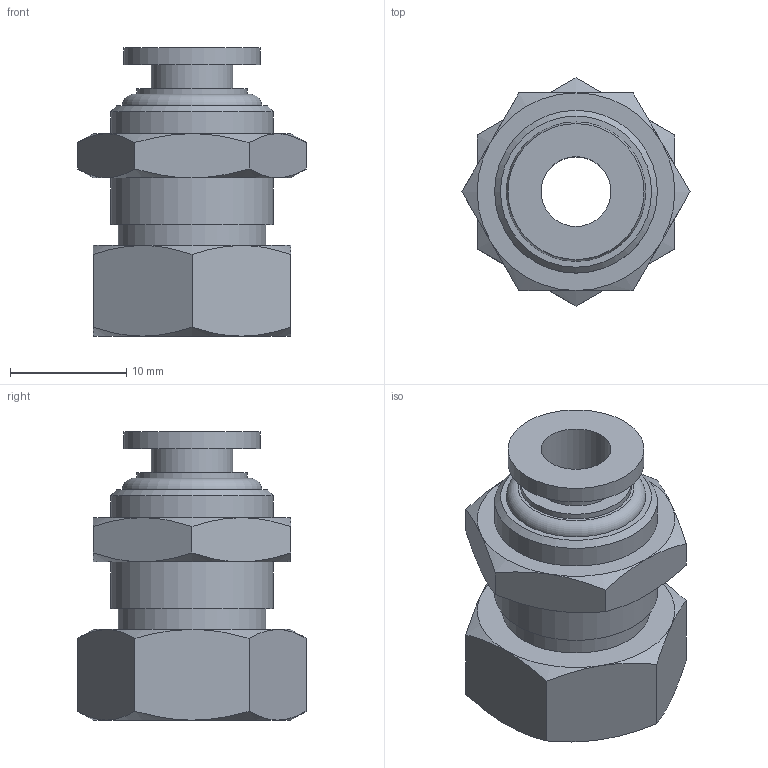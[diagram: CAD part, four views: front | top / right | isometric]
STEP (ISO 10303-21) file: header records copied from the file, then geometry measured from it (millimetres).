
FILE_DESCRIPTION((''),'2;1');
FILE_NAME('S:\UTecnico\ArchivioUT\Speciali Clienti\Speciali KONFIT\Plastica\RP\RP 61\RP611806.stp','2012-05-16T15:04:50',('UT5'),(''),'Autodesk Inventor 2012','Autodesk Inventor 2012','');
FILE_SCHEMA(('AUTOMOTIVE_DESIGN { 1 0 10303 214 1 1 1 1 }'));
Length unit declared in the file: millimetre
Products named in the file (1): RP611806
Bounding box: 19.63 x 19.63 x 24.8 mm (x, y, z)
Volume: 3510.7 mm3; surface area: 2476.8 mm2
Topology: 1 solids, 1 shells, 57 faces, 117 edges, 71 vertices
Faces by surface type: cone 25, plane 23, cylinder 8, torus 1
Full cylindrical faces by diameter (mm): 6 x1, 7 x1, 8.6 x1, 9.5 x1, 11.7 x1, 12.7 x1, 14 x2
Entity records: 1394 total; most frequent: CARTESIAN_POINT 324, DIRECTION 214, ORIENTED_EDGE 206, EDGE_CURVE 103, AXIS2_PLACEMENT_3D 101, EDGE_LOOP 78, VERTEX_POINT 67, FACE_OUTER_BOUND 57
